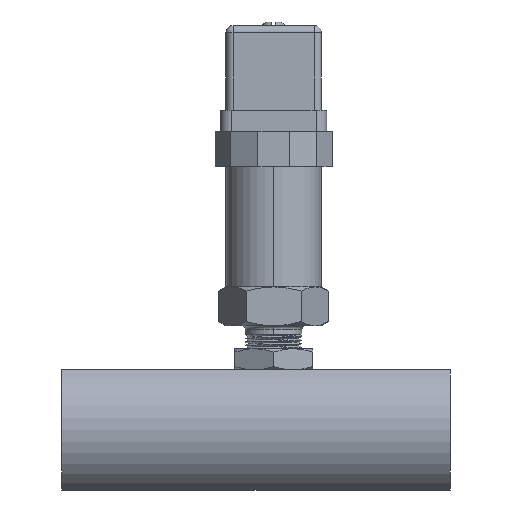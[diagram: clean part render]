
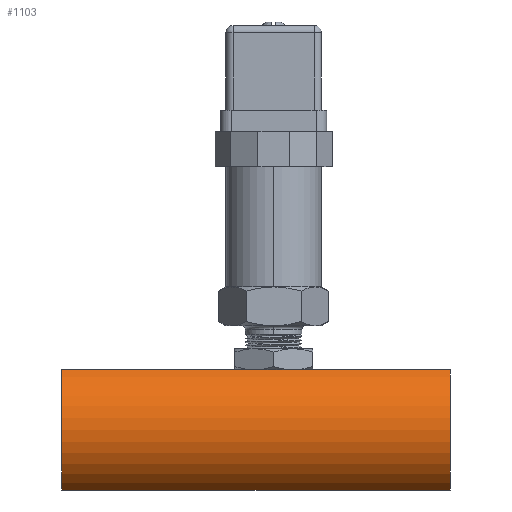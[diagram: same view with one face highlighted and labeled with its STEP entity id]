
A CAD part, left-side view. The second image highlights one B-rep face of the part: STEP entity #1103.
In plain terms, the highlighted cylindrical face has radius 20 mm (diameter 40 mm), a partial arc.
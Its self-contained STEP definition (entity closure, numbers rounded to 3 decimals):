
#402=CYLINDRICAL_SURFACE('',#7478,20.);
#732=FACE_OUTER_BOUND('',#2003,.T.);
#1103=ADVANCED_FACE('',(#732),#402,.T.);
#1550=CIRCLE('',#7476,20.);
#1551=CIRCLE('',#7477,20.);
#2003=EDGE_LOOP('',(#3891,#3892,#3893,#3894));
#3891=ORIENTED_EDGE('',*,*,#5635,.F.);
#3892=ORIENTED_EDGE('',*,*,#5636,.T.);
#3893=ORIENTED_EDGE('',*,*,#5637,.F.);
#3894=ORIENTED_EDGE('',*,*,#5638,.T.);
#4662=VERTEX_POINT('',#13486);
#4663=VERTEX_POINT('',#13487);
#4664=VERTEX_POINT('',#13489);
#4665=VERTEX_POINT('',#13491);
#5635=EDGE_CURVE('',#4662,#4663,#6341,.T.);
#5636=EDGE_CURVE('',#4662,#4664,#1550,.T.);
#5637=EDGE_CURVE('',#4665,#4664,#6342,.T.);
#5638=EDGE_CURVE('',#4665,#4663,#1551,.T.);
#6341=LINE('',#13485,#6976);
#6342=LINE('',#13490,#6977);
#6976=VECTOR('',#9106,1.);
#6977=VECTOR('',#9109,1.);
#7476=AXIS2_PLACEMENT_3D('',#13488,#9107,#9108);
#7477=AXIS2_PLACEMENT_3D('',#13492,#9110,#9111);
#7478=AXIS2_PLACEMENT_3D('',#13493,#9112,#9113);
#9106=DIRECTION('',(0.,1.,0.));
#9107=DIRECTION('',(0.,1.,0.));
#9108=DIRECTION('',(-1.,0.,0.));
#9109=DIRECTION('',(0.,-1.,0.));
#9110=DIRECTION('',(0.,-1.,0.));
#9111=DIRECTION('',(-1.,0.,0.));
#9112=DIRECTION('',(0.,-1.,0.));
#9113=DIRECTION('',(1.,0.,0.));
#13485=CARTESIAN_POINT('',(14.964,101.9,-128.));
#13486=CARTESIAN_POINT('',(14.964,-13.6,-128.));
#13487=CARTESIAN_POINT('',(14.964,96.4,-128.));
#13488=CARTESIAN_POINT('',(25.5,-13.6,-111.));
#13489=CARTESIAN_POINT('',(14.964,-13.6,-94.));
#13490=CARTESIAN_POINT('',(14.964,101.9,-94.));
#13491=CARTESIAN_POINT('',(14.964,96.4,-94.));
#13492=CARTESIAN_POINT('',(25.5,96.4,-111.));
#13493=CARTESIAN_POINT('',(25.5,101.9,-111.));
